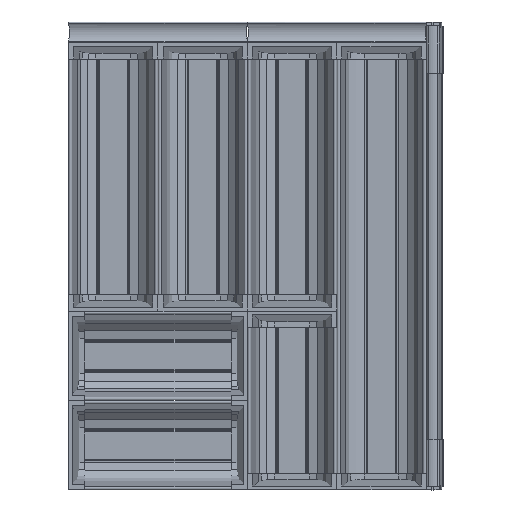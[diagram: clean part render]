
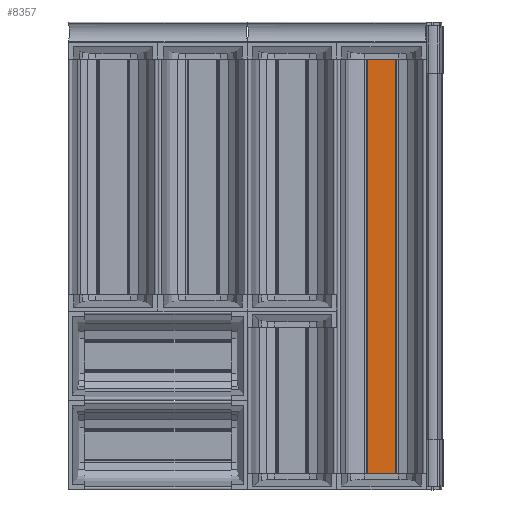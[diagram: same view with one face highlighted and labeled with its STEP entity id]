
A CAD part, top view. The second image highlights one B-rep face of the part: STEP entity #8357.
In plain terms, the highlighted planar face has unit normal (0, 0, 1).
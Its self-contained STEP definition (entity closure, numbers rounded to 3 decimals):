
#2628 = LINE ( 'NONE', #3447, #2629 ) ;
#2629 = VECTOR ( 'NONE', #3448, 1000. ) ;
#2630 = LINE ( 'NONE', #3432, #2634 ) ;
#2632 = LINE ( 'NONE', #3440, #2633 ) ;
#2633 = VECTOR ( 'NONE', #3441, 1000. ) ;
#2634 = VECTOR ( 'NONE', #3443, 1000. ) ;
#2635 = VECTOR ( 'NONE', #3453, 1000. ) ;
#2636 = LINE ( 'NONE', #3452, #2635 ) ;
#3432 = CARTESIAN_POINT ( 'NONE',  ( 330.75, 16.5, 5.6 ) ) ;
#3440 = CARTESIAN_POINT ( 'NONE',  ( 302.75, 441.5, 5.6 ) ) ;
#3441 = DIRECTION ( 'NONE',  ( 0., -1., 0. ) ) ;
#3443 = DIRECTION ( 'NONE',  ( -1., 0., 0. ) ) ;
#3447 = CARTESIAN_POINT ( 'NONE',  ( 330.75, 441.5, 5.6 ) ) ;
#3448 = DIRECTION ( 'NONE',  ( 0., -1., 0. ) ) ;
#3452 = CARTESIAN_POINT ( 'NONE',  ( 330.75, 436., 5.6 ) ) ;
#3453 = DIRECTION ( 'NONE',  ( 1., 0., 0. ) ) ;
#8357 = ADVANCED_FACE ( 'NONE', ( #34797 ), #33945, .F. ) ;
#11068 = CARTESIAN_POINT ( 'NONE',  ( 330.75, 16.5, 5.6 ) ) ;
#11194 = CARTESIAN_POINT ( 'NONE',  ( 302.75, 16.5, 5.6 ) ) ;
#11475 = CARTESIAN_POINT ( 'NONE',  ( 302.75, 436., 5.6 ) ) ;
#12499 = CARTESIAN_POINT ( 'NONE',  ( 330.75, 436., 5.6 ) ) ;
#16011 = EDGE_CURVE ( 'NONE', #44973, #44933, #2632, .T. ) ;
#16012 = EDGE_CURVE ( 'NONE', #44912, #44933, #2630, .T. ) ;
#16014 = EDGE_CURVE ( 'NONE', #45287, #44912, #2628, .T. ) ;
#16016 = EDGE_CURVE ( 'NONE', #44973, #45287, #2636, .T. ) ;
#17485 = ORIENTED_EDGE ( 'NONE', *, *, #16016, .F. ) ;
#17486 = ORIENTED_EDGE ( 'NONE', *, *, #16011, .T. ) ;
#17487 = ORIENTED_EDGE ( 'NONE', *, *, #16012, .F. ) ;
#17488 = ORIENTED_EDGE ( 'NONE', *, *, #16014, .F. ) ;
#29855 = AXIS2_PLACEMENT_3D ( 'NONE', #33944, #33954, #33955 ) ;
#33944 = CARTESIAN_POINT ( 'NONE',  ( 330.75, 441.5, 5.6 ) ) ;
#33945 = PLANE ( 'NONE',  #29855 ) ;
#33954 = DIRECTION ( 'NONE',  ( 0., 0., -1. ) ) ;
#33955 = DIRECTION ( 'NONE',  ( 0., -1., 0. ) ) ;
#34797 = FACE_OUTER_BOUND ( 'NONE', #44466, .T. ) ;
#44466 = EDGE_LOOP ( 'NONE', ( #17485, #17486, #17487, #17488 ) ) ;
#44912 = VERTEX_POINT ( 'NONE', #11068 ) ;
#44933 = VERTEX_POINT ( 'NONE', #11194 ) ;
#44973 = VERTEX_POINT ( 'NONE', #11475 ) ;
#45287 = VERTEX_POINT ( 'NONE', #12499 ) ;
